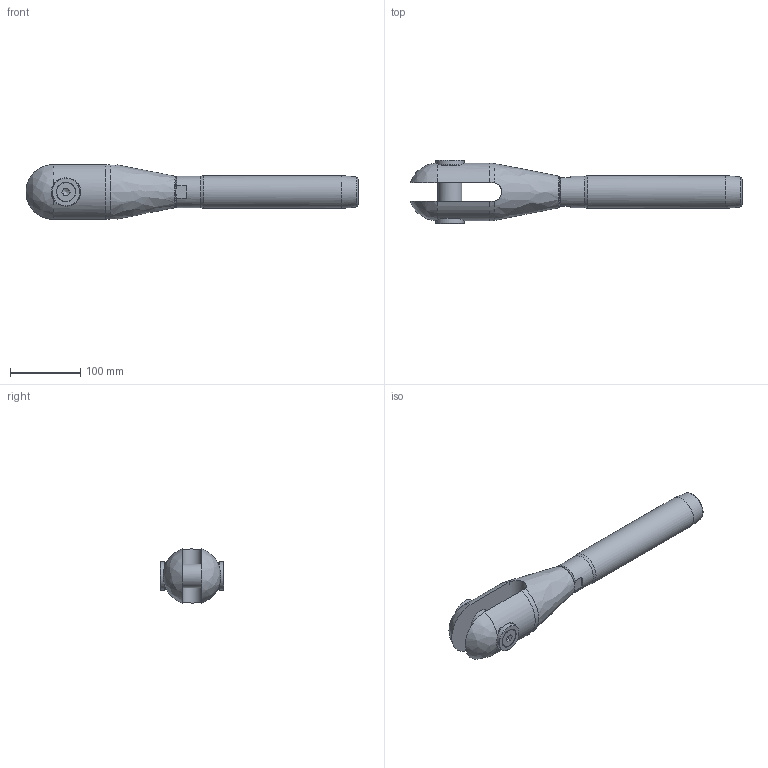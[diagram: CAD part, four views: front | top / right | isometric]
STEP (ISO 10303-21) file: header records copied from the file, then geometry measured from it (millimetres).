
FILE_DESCRIPTION(/* description */ (''),/* implementation_level */ '2;1');
FILE_NAME(/* name */ 'MAC-R 24_1,4418',/* time_stamp */ '2023-05-23T17:52:12+02:00',/* author */ (''),/* organization */ (''),/* preprocessor_version */ 'ST-DEVELOPER v16.5',/* originating_system */ 'Rhino 7.22',/* authorisation */ '');
FILE_SCHEMA (('CONFIG_CONTROL_DESIGN'));
Length unit declared in the file: millimetre
Products named in the file (1): Document
Bounding box: 471.2 x 89.67 x 77.43 mm (x, y, z)
Volume: 1072612.3 mm3; surface area: 142717.5 mm2
Topology: 7 solids, 7 shells, 87 faces, 245 edges, 171 vertices
Faces by surface type: plane 36, bspline 27, cylinder 24
Full cylindrical faces by diameter (mm): 11.835 x2, 14 x2, 14.5 x2, 26.52 x2, 32.752 x1, 34 x1, 36 x3, 40 x2, 44.5 x1, 46.8 x1
Entity records: 3499 total; most frequent: CARTESIAN_POINT 1943, ORIENTED_EDGE 480, EDGE_CURVE 240, VERTEX_POINT 171, EDGE_LOOP 99, B_SPLINE_CURVE_WITH_KNOTS 96, ADVANCED_FACE 87, FACE_OUTER_BOUND 87
